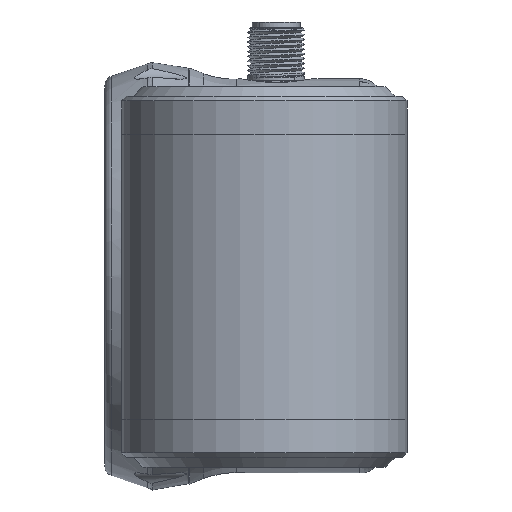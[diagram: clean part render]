
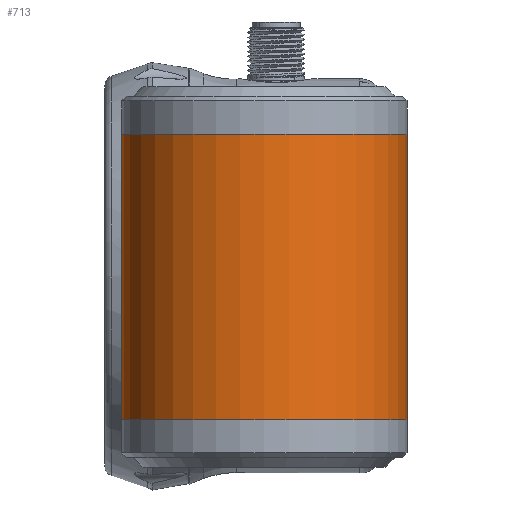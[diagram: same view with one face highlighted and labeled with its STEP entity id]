
A CAD part, front view. The second image highlights one B-rep face of the part: STEP entity #713.
In plain terms, the highlighted cylindrical face has radius 30 mm (diameter 60 mm), a full revolution.
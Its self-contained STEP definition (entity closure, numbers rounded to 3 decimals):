
#234=LINE('',#4220,#297);
#235=LINE('',#4224,#298);
#297=VECTOR('',#3351,1.);
#298=VECTOR('',#3354,1.);
#362=FACE_BOUND('',#1133,.T.);
#363=FACE_BOUND('',#1134,.T.);
#364=FACE_BOUND('',#1135,.T.);
#509=CIRCLE('',#2956,30.);
#510=CIRCLE('',#2957,30.);
#713=ADVANCED_FACE('',(#362,#363,#364),#912,.T.);
#912=CYLINDRICAL_SURFACE('',#2958,30.);
#1133=EDGE_LOOP('',(#1416,#1417,#1418,#1419));
#1134=EDGE_LOOP('',(#1420));
#1135=EDGE_LOOP('',(#1421));
#1416=ORIENTED_EDGE('',*,*,#2456,.F.);
#1417=ORIENTED_EDGE('',*,*,#2455,.T.);
#1418=ORIENTED_EDGE('',*,*,#2457,.T.);
#1419=ORIENTED_EDGE('',*,*,#2453,.T.);
#1420=ORIENTED_EDGE('',*,*,#2458,.F.);
#1421=ORIENTED_EDGE('',*,*,#2459,.T.);
#2176=VERTEX_POINT('',#4218);
#2177=VERTEX_POINT('',#4219);
#2178=VERTEX_POINT('',#4221);
#2179=VERTEX_POINT('',#4223);
#2180=VERTEX_POINT('',#4250);
#2181=VERTEX_POINT('',#4252);
#2453=EDGE_CURVE('',#2178,#2177,#234,.T.);
#2455=EDGE_CURVE('',#2176,#2179,#235,.T.);
#2456=EDGE_CURVE('',#2176,#2177,#2834,.T.);
#2457=EDGE_CURVE('',#2179,#2178,#2835,.T.);
#2458=EDGE_CURVE('',#2180,#2180,#509,.T.);
#2459=EDGE_CURVE('',#2181,#2181,#510,.T.);
#2834=B_SPLINE_CURVE_WITH_KNOTS('',3,(#4226,#4227,#4228,#4229,#4230,#4231,
#4232,#4233,#4234,#4235,#4236,#4237),.UNSPECIFIED.,.F.,.F.,(4,2,2,2,2,4),
(0.,0.25,0.375,0.5,0.75,1.),.UNSPECIFIED.);
#2835=B_SPLINE_CURVE_WITH_KNOTS('',3,(#4239,#4240,#4241,#4242,#4243,#4244,
#4245,#4246,#4247,#4248),.UNSPECIFIED.,.F.,.F.,(4,2,2,2,4),(0.,0.25,0.5,
0.75,1.),.UNSPECIFIED.);
#2956=AXIS2_PLACEMENT_3D('',#4249,#3359,#3360);
#2957=AXIS2_PLACEMENT_3D('',#4251,#3361,#3362);
#2958=AXIS2_PLACEMENT_3D('',#4253,#3363,#3364);
#3351=DIRECTION('',(0.,0.,1.));
#3354=DIRECTION('',(0.,0.,-1.));
#3359=DIRECTION('',(0.,0.,1.));
#3360=DIRECTION('',(1.,0.,0.));
#3361=DIRECTION('',(0.,0.,1.));
#3362=DIRECTION('',(1.,0.,0.));
#3363=DIRECTION('',(0.,0.,-1.));
#3364=DIRECTION('',(1.,0.,0.));
#4218=CARTESIAN_POINT('',(42.23,26.,4.031));
#4219=CARTESIAN_POINT('',(63.77,26.,4.031));
#4220=CARTESIAN_POINT('',(63.77,26.,-4.031));
#4221=CARTESIAN_POINT('',(63.77,26.,-4.031));
#4223=CARTESIAN_POINT('',(42.23,26.,-4.031));
#4224=CARTESIAN_POINT('',(42.23,26.,17.));
#4226=CARTESIAN_POINT('',(42.23,26.,4.031));
#4227=CARTESIAN_POINT('',(42.887,26.253,6.508));
#4228=CARTESIAN_POINT('',(44.151,26.729,8.81));
#4229=CARTESIAN_POINT('',(46.943,27.398,11.457));
#4230=CARTESIAN_POINT('',(48.003,27.605,12.184));
#4231=CARTESIAN_POINT('',(50.39,27.91,13.217));
#4232=CARTESIAN_POINT('',(51.687,27.999,13.497));
#4233=CARTESIAN_POINT('',(55.568,28.002,13.505));
#4234=CARTESIAN_POINT('',(58.096,27.626,12.357));
#4235=CARTESIAN_POINT('',(61.827,26.736,8.842));
#4236=CARTESIAN_POINT('',(63.106,26.256,6.536));
#4237=CARTESIAN_POINT('',(63.77,26.,4.031));
#4239=CARTESIAN_POINT('',(42.23,26.,-4.031));
#4240=CARTESIAN_POINT('',(42.889,26.254,-6.518));
#4241=CARTESIAN_POINT('',(44.16,26.732,-8.821));
#4242=CARTESIAN_POINT('',(47.875,27.621,-12.338));
#4243=CARTESIAN_POINT('',(50.349,27.997,-13.492));
#4244=CARTESIAN_POINT('',(55.594,28.003,-13.508));
#4245=CARTESIAN_POINT('',(58.095,27.626,-12.355));
#4246=CARTESIAN_POINT('',(61.815,26.739,-8.855));
#4247=CARTESIAN_POINT('',(63.11,26.254,-6.522));
#4248=CARTESIAN_POINT('',(63.77,26.,-4.031));
#4249=CARTESIAN_POINT('',(53.,-2.,30.));
#4250=CARTESIAN_POINT('',(83.,-2.,30.));
#4251=CARTESIAN_POINT('',(53.,-2.,-30.));
#4252=CARTESIAN_POINT('',(83.,-2.,-30.));
#4253=CARTESIAN_POINT('',(53.,-2.,17.));
